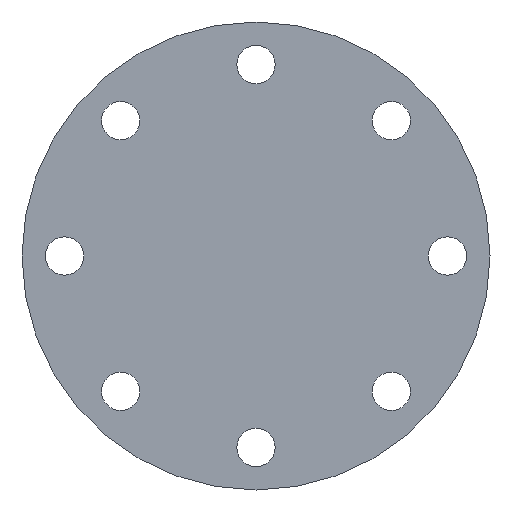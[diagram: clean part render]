
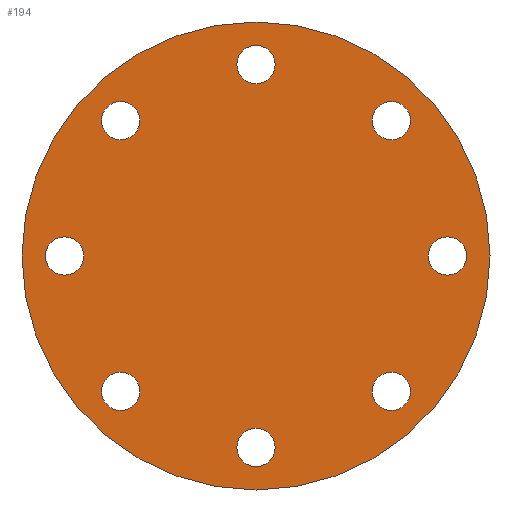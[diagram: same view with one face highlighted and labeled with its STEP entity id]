
A CAD part, front view. The second image highlights one B-rep face of the part: STEP entity #194.
In plain terms, the highlighted planar face has unit normal (0, -1, 0).
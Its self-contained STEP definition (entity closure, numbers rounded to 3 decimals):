
#13=PLANE($,#224);
#23=FACE_BOUND($,#67,.T.);
#24=FACE_BOUND($,#68,.T.);
#25=FACE_BOUND($,#69,.T.);
#26=FACE_BOUND($,#70,.T.);
#27=FACE_BOUND($,#71,.T.);
#28=FACE_BOUND($,#72,.T.);
#29=FACE_BOUND($,#73,.T.);
#30=FACE_BOUND($,#74,.T.);
#31=FACE_BOUND($,#75,.T.);
#67=EDGE_LOOP($,(#157));
#68=EDGE_LOOP($,(#158));
#69=EDGE_LOOP($,(#159));
#70=EDGE_LOOP($,(#160));
#71=EDGE_LOOP($,(#161));
#72=EDGE_LOOP($,(#162));
#73=EDGE_LOOP($,(#163));
#74=EDGE_LOOP($,(#164));
#75=EDGE_LOOP($,(#165));
#88=CIRCLE($,#202,9.);
#90=CIRCLE($,#205,9.);
#92=CIRCLE($,#208,9.);
#94=CIRCLE($,#211,9.);
#96=CIRCLE($,#214,9.);
#98=CIRCLE($,#217,9.);
#100=CIRCLE($,#220,9.);
#102=CIRCLE($,#223,9.);
#103=CIRCLE($,#225,110.);
#106=VERTEX_POINT($,#293);
#108=VERTEX_POINT($,#298);
#110=VERTEX_POINT($,#303);
#112=VERTEX_POINT($,#308);
#114=VERTEX_POINT($,#313);
#116=VERTEX_POINT($,#318);
#118=VERTEX_POINT($,#323);
#120=VERTEX_POINT($,#328);
#121=VERTEX_POINT($,#331);
#124=EDGE_CURVE($,#106,#106,#88,.T.);
#126=EDGE_CURVE($,#108,#108,#90,.T.);
#128=EDGE_CURVE($,#110,#110,#92,.T.);
#130=EDGE_CURVE($,#112,#112,#94,.T.);
#132=EDGE_CURVE($,#114,#114,#96,.T.);
#134=EDGE_CURVE($,#116,#116,#98,.T.);
#136=EDGE_CURVE($,#118,#118,#100,.T.);
#138=EDGE_CURVE($,#120,#120,#102,.T.);
#139=EDGE_CURVE($,#121,#121,#103,.T.);
#157=ORIENTED_EDGE($,*,*,#124,.T.);
#158=ORIENTED_EDGE($,*,*,#126,.T.);
#159=ORIENTED_EDGE($,*,*,#128,.T.);
#160=ORIENTED_EDGE($,*,*,#130,.T.);
#161=ORIENTED_EDGE($,*,*,#132,.T.);
#162=ORIENTED_EDGE($,*,*,#134,.T.);
#163=ORIENTED_EDGE($,*,*,#136,.T.);
#164=ORIENTED_EDGE($,*,*,#138,.T.);
#165=ORIENTED_EDGE($,*,*,#139,.F.);
#194=ADVANCED_FACE($,(#23,#24,#25,#26,#27,#28,#29,#30,#31),#13,.T.);
#202=AXIS2_PLACEMENT_3D($,#294,#235,#236);
#205=AXIS2_PLACEMENT_3D($,#299,#241,#242);
#208=AXIS2_PLACEMENT_3D($,#304,#247,#248);
#211=AXIS2_PLACEMENT_3D($,#309,#253,#254);
#214=AXIS2_PLACEMENT_3D($,#314,#259,#260);
#217=AXIS2_PLACEMENT_3D($,#319,#265,#266);
#220=AXIS2_PLACEMENT_3D($,#324,#271,#272);
#223=AXIS2_PLACEMENT_3D($,#329,#277,#278);
#224=AXIS2_PLACEMENT_3D($,#330,#279,#280);
#225=AXIS2_PLACEMENT_3D($,#332,#281,#282);
#235=DIRECTION('center_axis',(0.,1.,0.));
#236=DIRECTION('ref_axis',(0.707,0.,0.707));
#241=DIRECTION('center_axis',(0.,1.,0.));
#242=DIRECTION('ref_axis',(0.,0.,1.));
#247=DIRECTION('center_axis',(0.,1.,0.));
#248=DIRECTION('ref_axis',(-0.707,0.,0.707));
#253=DIRECTION('center_axis',(0.,1.,0.));
#254=DIRECTION('ref_axis',(-1.,0.,0.));
#259=DIRECTION('center_axis',(0.,1.,0.));
#260=DIRECTION('ref_axis',(-0.707,0.,-0.707));
#265=DIRECTION('center_axis',(0.,1.,0.));
#266=DIRECTION('ref_axis',(0.,0.,-1.));
#271=DIRECTION('center_axis',(0.,1.,0.));
#272=DIRECTION('ref_axis',(0.707,0.,-0.707));
#277=DIRECTION('center_axis',(0.,1.,0.));
#278=DIRECTION('ref_axis',(1.,0.,0.));
#279=DIRECTION('center_axis',(0.,-1.,0.));
#280=DIRECTION('ref_axis',(0.,0.,-1.));
#281=DIRECTION('center_axis',(0.,1.,0.));
#282=DIRECTION('ref_axis',(-1.,0.,0.));
#293=CARTESIAN_POINT('',(57.276,0.,57.276));
#294=CARTESIAN_POINT('Origin',(63.64,0.,63.64));
#298=CARTESIAN_POINT('',(0.,0.,81.));
#299=CARTESIAN_POINT('Origin',(0.,0.,90.));
#303=CARTESIAN_POINT('',(-57.276,0.,57.276));
#304=CARTESIAN_POINT('Origin',(-63.64,0.,63.64));
#308=CARTESIAN_POINT('',(-81.,0.,0.));
#309=CARTESIAN_POINT('Origin',(-90.,0.,0.));
#313=CARTESIAN_POINT('',(-57.276,0.,-57.276));
#314=CARTESIAN_POINT('Origin',(-63.64,0.,-63.64));
#318=CARTESIAN_POINT('',(0.,0.,-81.));
#319=CARTESIAN_POINT('Origin',(0.,0.,-90.));
#323=CARTESIAN_POINT('',(57.276,0.,-57.276));
#324=CARTESIAN_POINT('Origin',(63.64,0.,-63.64));
#328=CARTESIAN_POINT('',(81.,0.,0.));
#329=CARTESIAN_POINT('Origin',(90.,0.,0.));
#330=CARTESIAN_POINT('Origin',(-55.,0.,0.));
#331=CARTESIAN_POINT('',(-110.,0.,0.));
#332=CARTESIAN_POINT('Origin',(0.,0.,0.));
